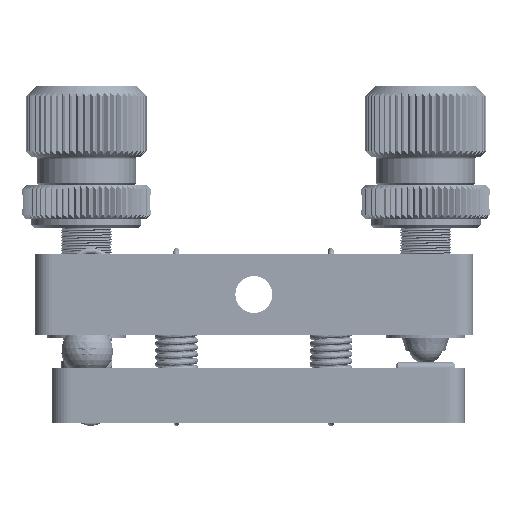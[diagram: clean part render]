
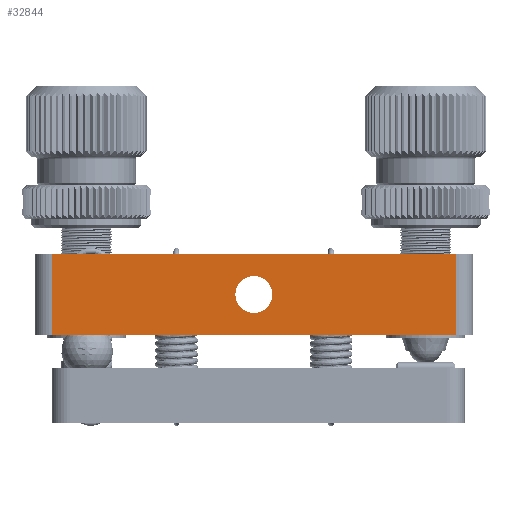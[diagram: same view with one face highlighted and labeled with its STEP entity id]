
A CAD part, left-side view. The second image highlights one B-rep face of the part: STEP entity #32844.
In plain terms, the highlighted planar face has unit normal (-1, 0, 0).
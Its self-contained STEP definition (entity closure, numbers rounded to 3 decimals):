
#31472=DIRECTION('',(0.,-1.,0.));
#31473=VECTOR('',#31472,47.);
#31474=CARTESIAN_POINT('',(-0.5,-1.5,0.));
#31475=LINE('',#31474,#31473);
#31592=DIRECTION('',(0.,0.,1.));
#31593=VECTOR('',#31592,9.5);
#31594=CARTESIAN_POINT('',(-0.5,-48.5,0.));
#31595=LINE('',#31594,#31593);
#31596=DIRECTION('',(0.,-1.,0.));
#31597=VECTOR('',#31596,47.);
#31598=CARTESIAN_POINT('',(-0.5,-1.5,9.5));
#31599=LINE('',#31598,#31597);
#31600=CARTESIAN_POINT('',(-0.5,-24.98,4.75));
#31601=DIRECTION('',(-1.,0.,0.));
#31602=DIRECTION('',(0.,1.,0.));
#31603=AXIS2_PLACEMENT_3D('',#31600,#31601,#31602);
#31605=CARTESIAN_POINT('',(-0.5,-24.98,4.75));
#31606=DIRECTION('',(-1.,0.,0.));
#31607=DIRECTION('',(0.,-1.,0.));
#31608=AXIS2_PLACEMENT_3D('',#31605,#31606,#31607);
#31610=DIRECTION('',(0.,0.,-1.));
#31611=VECTOR('',#31610,9.5);
#31612=CARTESIAN_POINT('',(-0.5,-1.5,9.5));
#31613=LINE('',#31612,#31611);
#32411=CARTESIAN_POINT('',(-0.5,-1.5,0.));
#32412=VERTEX_POINT('',#32411);
#32413=CARTESIAN_POINT('',(-0.5,-48.5,0.));
#32414=VERTEX_POINT('',#32413);
#32467=CARTESIAN_POINT('',(-0.5,-48.5,9.5));
#32468=VERTEX_POINT('',#32467);
#32469=CARTESIAN_POINT('',(-0.5,-1.5,9.5));
#32470=VERTEX_POINT('',#32469);
#32599=CARTESIAN_POINT('',(-0.5,-22.83,4.75));
#32600=CARTESIAN_POINT('',(-0.5,-27.13,4.75));
#32601=VERTEX_POINT('',#32599);
#32602=VERTEX_POINT('',#32600);
#32825=CARTESIAN_POINT('',(-0.5,-50.,0.));
#32826=DIRECTION('',(1.,0.,0.));
#32827=DIRECTION('',(0.,1.,0.));
#32828=AXIS2_PLACEMENT_3D('',#32825,#32826,#32827);
#32829=PLANE('',#32828);
#32831=ORIENTED_EDGE('',*,*,#32830,.F.);
#32833=ORIENTED_EDGE('',*,*,#32832,.T.);
#32834=ORIENTED_EDGE('',*,*,#32818,.F.);
#32835=ORIENTED_EDGE('',*,*,#32680,.F.);
#32836=EDGE_LOOP('',(#32831,#32833,#32834,#32835));
#32837=FACE_OUTER_BOUND('',#32836,.F.);
#32839=ORIENTED_EDGE('',*,*,#32838,.T.);
#32841=ORIENTED_EDGE('',*,*,#32840,.T.);
#32842=EDGE_LOOP('',(#32839,#32841));
#32843=FACE_BOUND('',#32842,.F.);
#32844=ADVANCED_FACE('',(#32837,#32843),#32829,.F.);
#31604=CIRCLE('',#31603,2.15);
#31609=CIRCLE('',#31608,2.15);
#32680=EDGE_CURVE('',#32412,#32414,#31475,.T.);
#32818=EDGE_CURVE('',#32414,#32468,#31595,.T.);
#32830=EDGE_CURVE('',#32470,#32412,#31613,.T.);
#32832=EDGE_CURVE('',#32470,#32468,#31599,.T.);
#32838=EDGE_CURVE('',#32601,#32602,#31604,.T.);
#32840=EDGE_CURVE('',#32602,#32601,#31609,.T.);
